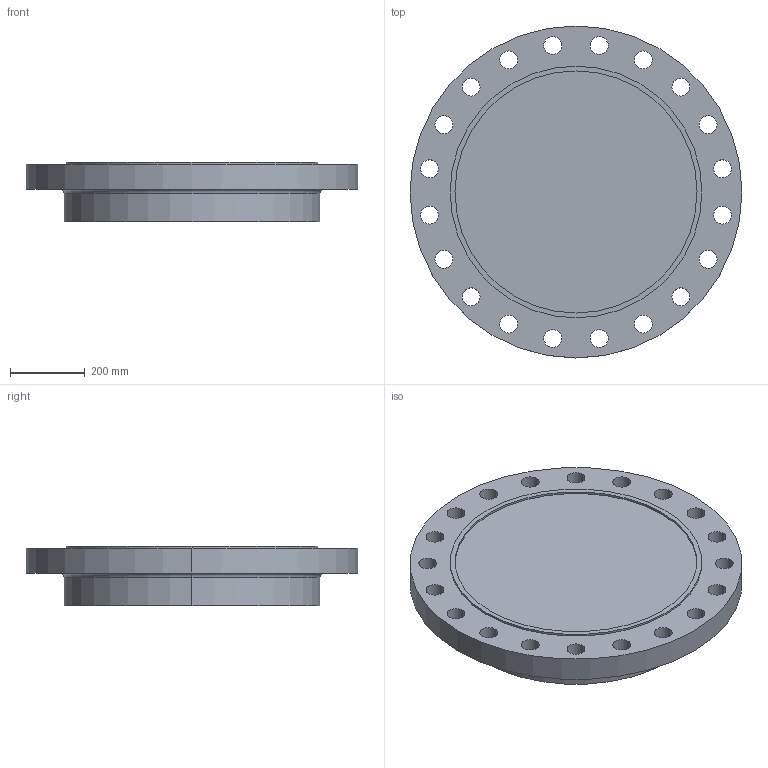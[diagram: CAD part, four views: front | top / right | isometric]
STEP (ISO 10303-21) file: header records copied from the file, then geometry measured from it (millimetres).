
FILE_DESCRIPTION (( 'STEP AP214' ), '1' );
FILE_NAME ('PN40 DN600 Type 21(i) - Type C Face.STEP', '2018-12-29T04:40:56', ( '' ), ( '' ), 'SwSTEP 2.0', 'SolidWorks 2019', '' );
FILE_SCHEMA (( 'AUTOMOTIVE_DESIGN' ));
Length unit declared in the file: millimetre
Products named in the file (1): PN40 DN600 Type 21(i) - Type C Face
Bounding box: 890 x 890 x 160 mm (x, y, z)
Volume: 71704943.5 mm3; surface area: 1759832.8 mm2
Topology: 1 solids, 1 shells, 55 faces, 148 edges, 98 vertices
Faces by surface type: cylinder 48, plane 5, torus 2
Entity records: 1900 total; most frequent: DIRECTION 360, CARTESIAN_POINT 302, ORIENTED_EDGE 296, AXIS2_PLACEMENT_3D 156, EDGE_CURVE 148, CIRCLE 100, VERTEX_POINT 98, EDGE_LOOP 98
